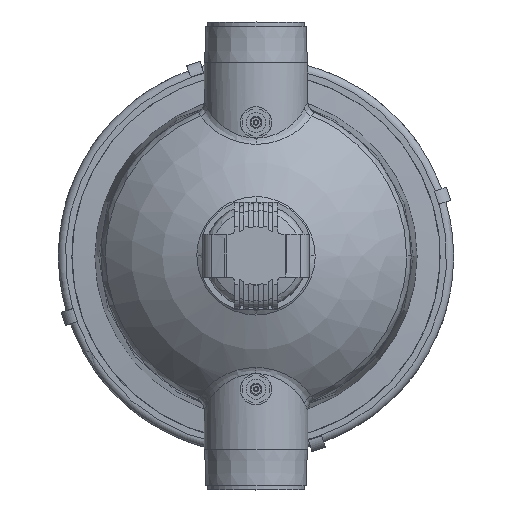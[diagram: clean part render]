
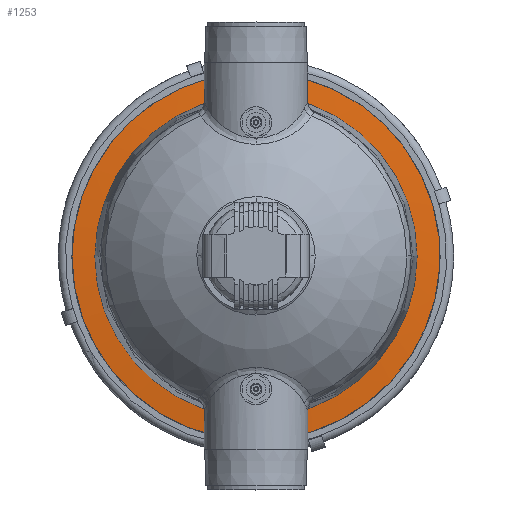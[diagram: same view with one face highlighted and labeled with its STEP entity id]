
A CAD part, top view. The second image highlights one B-rep face of the part: STEP entity #1253.
In plain terms, the highlighted conical face has half-angle 85 degrees and reference radius 106.9 mm.
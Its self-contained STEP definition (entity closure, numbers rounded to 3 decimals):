
#1253 = ADVANCED_FACE( '', ( #3277, #3278 ), #3279, .T. );
#3277 = FACE_OUTER_BOUND( '', #7656, .T. );
#3278 = FACE_BOUND( '', #7657, .T. );
#3279 = CONICAL_SURFACE( '', #7658, 106.9, 1.484 );
#7656 = EDGE_LOOP( '', ( #22082, #22083 ) );
#7657 = EDGE_LOOP( '', ( #22084 ) );
#7658 = AXIS2_PLACEMENT_3D( '', #22085, #22086, #22087 );
#22082 = ORIENTED_EDGE( '', *, *, #29826, .F. );
#22083 = ORIENTED_EDGE( '', *, *, #29827, .T. );
#22084 = ORIENTED_EDGE( '', *, *, #29828, .F. );
#22085 = CARTESIAN_POINT( '', ( 0., 0., 58.442 ) );
#22086 = DIRECTION( '', ( 0., 0., -1. ) );
#22087 = DIRECTION( '', ( 0., -1., 0. ) );
#29826 = EDGE_CURVE( '', #33731, #33732, #33733, .F. );
#29827 = EDGE_CURVE( '', #33731, #33732, #33734, .F. );
#29828 = EDGE_CURVE( '', #33735, #33735, #33736, .F. );
#33731 = VERTEX_POINT( '', #45293 );
#33732 = VERTEX_POINT( '', #45294 );
#33733 = CIRCLE( '', #45295, 106.238 );
#33734 = CIRCLE( '', #45296, 106.238 );
#33735 = VERTEX_POINT( '', #45297 );
#33736 = CIRCLE( '', #45298, 93. );
#45293 = CARTESIAN_POINT( '', ( -10., 105.766, 58.5 ) );
#45294 = CARTESIAN_POINT( '', ( 10., 105.766, 58.5 ) );
#45295 = AXIS2_PLACEMENT_3D( '', #60370, #60371, #60372 );
#45296 = AXIS2_PLACEMENT_3D( '', #60373, #60374, #60375 );
#45297 = CARTESIAN_POINT( '', ( -93., 0., 59.658 ) );
#45298 = AXIS2_PLACEMENT_3D( '', #60376, #60377, #60378 );
#60370 = CARTESIAN_POINT( '', ( 0., 0., 58.5 ) );
#60371 = DIRECTION( '', ( 0., 0., 1. ) );
#60372 = DIRECTION( '', ( 1., 0., 0. ) );
#60373 = CARTESIAN_POINT( '', ( 0., 0., 58.5 ) );
#60374 = DIRECTION( '', ( 0., 0., -1. ) );
#60375 = DIRECTION( '', ( -1., 0., 0. ) );
#60376 = CARTESIAN_POINT( '', ( 0., 0., 59.658 ) );
#60377 = DIRECTION( '', ( 0., 0., -1. ) );
#60378 = DIRECTION( '', ( -1., 0., 0. ) );
